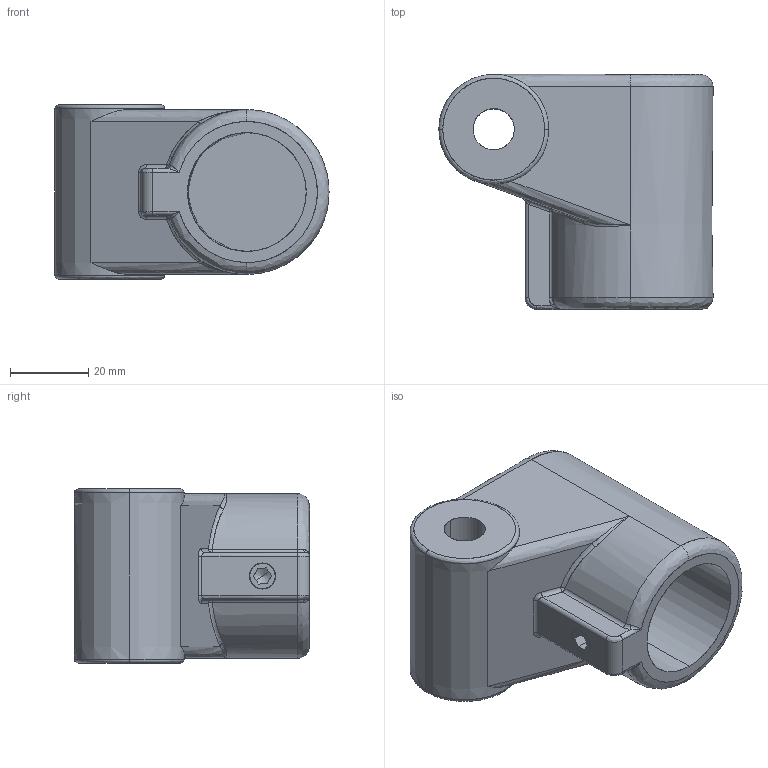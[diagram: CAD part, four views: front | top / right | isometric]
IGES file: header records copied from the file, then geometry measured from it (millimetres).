
Start section: SolidWorks IGES file using analytic representation for surfaces
Global section: file name: C:\Users\Gerard\OneDrive - Tecnodin, S.L\Escritorio\30 mm Verbinder im step. Format\31000410057.IGS; native system: SolidWorks 2016; preprocessor: SolidWorks 2016; author: Gerard; date: 240902.115337; units: millimetre
Bounding box: 70 x 60 x 44.5 mm (x, y, z)
Surface area: 22220.8 mm2 (no closed solid volume)
Topology: 0 solids, 0 shells, 74 faces, 985 edges, 977 vertices
Faces by surface type: bspline 39, revolution 35
